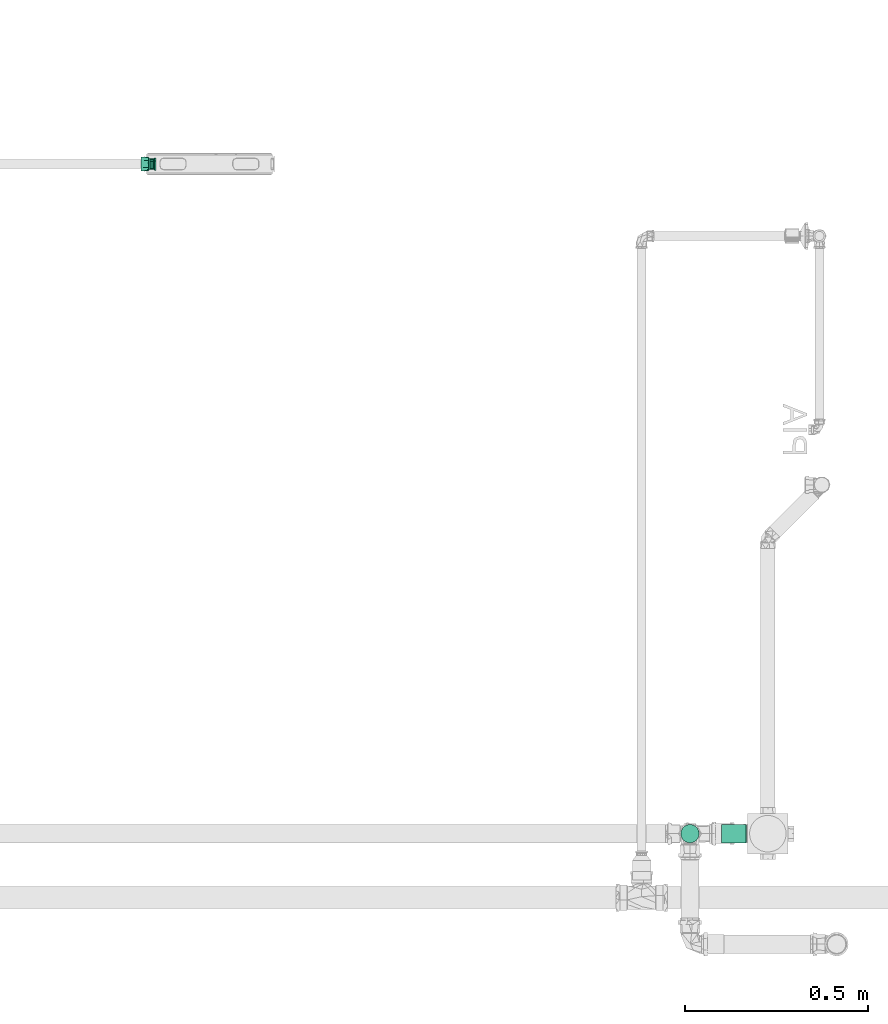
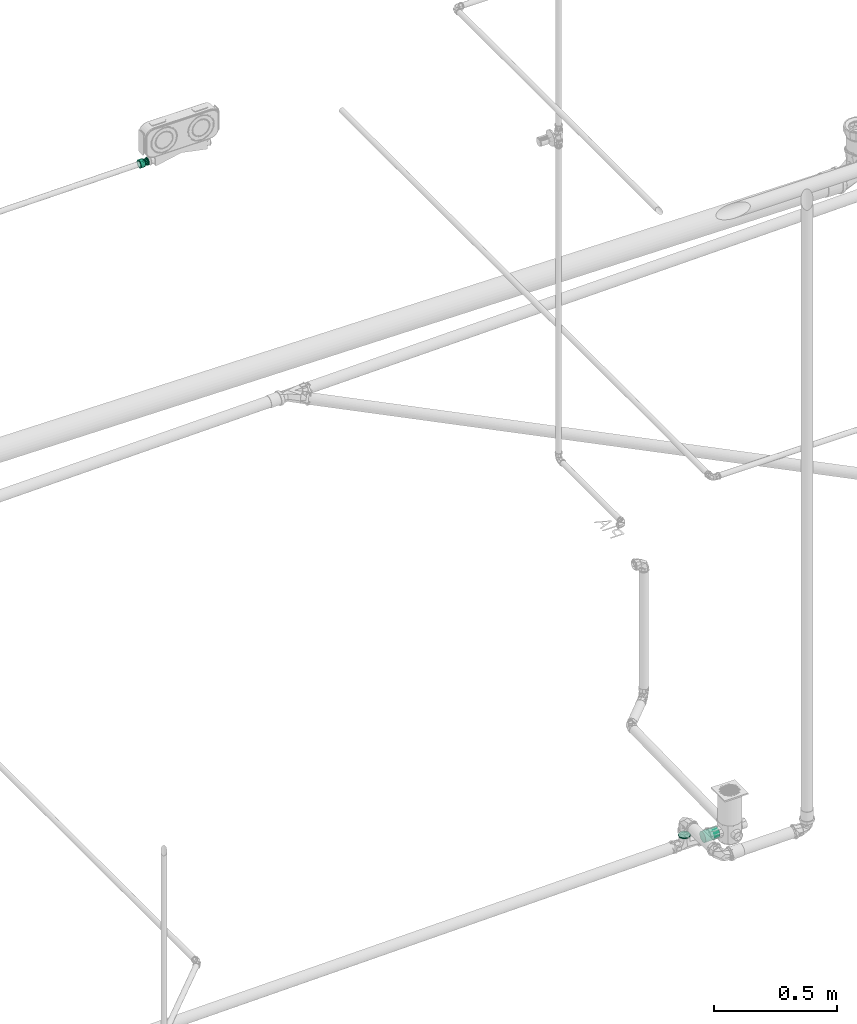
# One storey, part 368 of 589: 2 flow segments, 1 flow fitting.
"""IFC2X3 building model written with IfcOpenShell, lengths in millimetres."""

import ifcopenshell
import ifcopenshell.guid

model = None  # the IFC model being written
_history = None  # IfcOwnerHistory: only IFC2X3 demands one
_inside = {}  # id of a spatial element -> (the spatial element, [elements in it])
_under = {}  # id of a project, library or spatial element -> (it, [spatial elements below it])
_declared = {}  # id of a project -> (the project, [libraries it declares])
_typed = {}  # id of a type object -> (the type object, [elements of that type])
_made_of = {}  # id of a material, layer set ... -> (it, [elements and type objects made of it])


def new_model(schema):
    """Start an empty IFC model of exactly this schema.

    Asked for "IFC4X3", IfcOpenShell would pick the latest addendum, in which some entities
    have other attributes; the version numbers below select the first issue.
    IFC2X3 requires an IfcOwnerHistory on every rooted entity: one is made here for all.
    """
    global model, _history
    if schema == "IFC4X3":
        model = ifcopenshell.file(schema_version=(4, 3, 0, 0))
    else:
        model = ifcopenshell.file(schema=schema)
    _inside.clear()
    _under.clear()
    _declared.clear()
    _typed.clear()
    _made_of.clear()
    _history = None
    if model.schema == "IFC2X3":
        org = make("IfcOrganization", Name="unknown")
        user = make(
            "IfcPersonAndOrganization",
            ThePerson=make("IfcPerson", FamilyName="unknown"),
            TheOrganization=org,
        )
        app = make(
            "IfcApplication",
            ApplicationDeveloper=org,
            Version="unknown",
            ApplicationFullName="unknown",
            ApplicationIdentifier="unknown",
        )
        _history = make(
            "IfcOwnerHistory",
            OwningUser=user,
            OwningApplication=app,
            ChangeAction="ADDED",
            CreationDate=0,
        )
    return model


def make(cls, **values):
    """One entity of the class cls with the attributes given. An attribute that is None is left unset."""
    return model.create_entity(
        cls, **{name: value for name, value in values.items() if value is not None}
    )


def entity(cls, *values):
    """Any entity or typed value of the class cls, its attributes in the order of the schema. None: left unset."""
    e = model.create_entity(cls)
    for i, value in enumerate(values):
        if value is not None:
            e[i] = value
    return e


def rooted(cls, **values):
    """An entity with a GlobalId (a new one), such as an element, a storey or a relation."""
    return make(cls, GlobalId=ifcopenshell.guid.new(), OwnerHistory=_history, **values)


def si_unit(unit_type, name, prefix=None):
    """IfcSIUnit, for example si_unit("LENGTHUNIT", "METRE", prefix="MILLI")."""
    return make("IfcSIUnit", UnitType=unit_type, Prefix=prefix, Name=name)


def converted_unit(unit_type, name, factor, base, dimensions=None, offset=None):
    """IfcConversionBasedUnit, such as the inch: factor (a typed value) times the base unit."""
    return make(
        "IfcConversionBasedUnit"
        if offset is None
        else "IfcConversionBasedUnitWithOffset",
        ConversionOffset=offset,
        Dimensions=None
        if dimensions is None
        else entity("IfcDimensionalExponents", *dimensions),
        UnitType=unit_type,
        Name=name,
        ConversionFactor=make(
            "IfcMeasureWithUnit", ValueComponent=factor, UnitComponent=base
        ),
    )


def derived_unit(unit_type, elements):
    """IfcDerivedUnit: a product of units, each with its exponent."""
    return make(
        "IfcDerivedUnit",
        Elements=[
            make("IfcDerivedUnitElement", Unit=unit, Exponent=power)
            for unit, power in elements
        ],
        UnitType=unit_type,
    )


def assignment(units):
    """IfcUnitAssignment: the units of a project."""
    return None if units is None else make("IfcUnitAssignment", Units=units)


def point(xyz):
    """IfcCartesianPoint."""
    return None if xyz is None else make("IfcCartesianPoint", Coordinates=xyz)


def direction(xyz):
    """IfcDirection."""
    return None if xyz is None else make("IfcDirection", DirectionRatios=xyz)


def frame(location, z_axis=None, x_axis=None):
    """IfcAxis2Placement3D, a coordinate frame: its origin and axes. An axis left out is left unset."""
    return make(
        "IfcAxis2Placement3D",
        Location=point(location),
        Axis=direction(z_axis),
        RefDirection=direction(x_axis),
    )


def frame_2d(location, x_axis=None):
    """IfcAxis2Placement2D, a coordinate frame in the plane: its origin and x axis."""
    return make(
        "IfcAxis2Placement2D", Location=point(location), RefDirection=direction(x_axis)
    )


def origin():
    """The frame at (0, 0, 0) with its axes left unset."""
    return frame((0.0, 0.0, 0.0))


def origin_2d_with_axis():
    """The frame at (0, 0) in the plane with the x axis (1, 0) written out."""
    return frame_2d((0.0, 0.0), x_axis=(1.0, 0.0))


def place(relative_to, where):
    """IfcLocalPlacement: puts the frame where relative to a parent placement (None: the world)."""
    return make(
        "IfcLocalPlacement", PlacementRelTo=relative_to, RelativePlacement=where
    )


def context(
    kind, dimensions, precision=None, world=None, true_north=None, identifier=None
):
    """IfcGeometricRepresentationContext, for example the 3D "Model" context."""
    return make(
        "IfcGeometricRepresentationContext",
        ContextIdentifier=identifier,
        ContextType=kind,
        CoordinateSpaceDimension=dimensions,
        Precision=precision,
        WorldCoordinateSystem=world,
        TrueNorth=true_north,
    )


def subcontext(parent, identifier, kind, view, scale=None):
    """IfcGeometricRepresentationSubContext, for example "Body" below "Model"."""
    return make(
        "IfcGeometricRepresentationSubContext",
        ContextIdentifier=identifier,
        ContextType=kind,
        ParentContext=parent,
        TargetScale=scale,
        TargetView=view,
    )


def project(units=None, contexts=None):
    """IfcProject with its units and contexts."""
    return rooted(
        "IfcProject",
        Name="project",
        RepresentationContexts=contexts,
        UnitsInContext=assignment(units),
    )


def spatial(cls, under=None, at=None, **own):
    """A site, building, storey or space (cls), placed at a placement, below another one or the project."""
    s = rooted(cls, ObjectPlacement=at, **own)
    if under is not None:
        _under.setdefault(under.id(), (under, []))[1].append(s)
    return s


def profile(cls, at=None, kind="AREA", **sizes):
    """A parametric profile (cls). Its sizes go by their IFC names, for example OverallWidth=200.0."""
    return make(cls, ProfileType=kind, Position=at, **sizes)


def circle(**sizes):
    """IfcCircleProfileDef."""
    return profile("IfcCircleProfileDef", **sizes)


def extrude(swept, where, along, depth):
    """IfcExtrudedAreaSolid: the profile swept, set in the frame where, extruded along a direction by depth."""
    return make(
        "IfcExtrudedAreaSolid",
        SweptArea=swept,
        Position=where,
        ExtrudedDirection=direction(along),
        Depth=depth,
    )


def faces_of(points, faces, orient=None, outer=None):
    """IfcFace entities. A face is a list of loops; a loop is a list of indices into points, from 0.

    orient and outer hold one flag for each loop. By default every Orientation is true, the
    first loop of a face is its IfcFaceOuterBound and the others are IfcFaceBound.
    """
    made = []
    for i, loops in enumerate(faces):
        bounds = []
        for j, loop in enumerate(loops):
            is_outer = j == 0 if outer is None else outer[i][j]
            bounds.append(
                make(
                    "IfcFaceOuterBound" if is_outer else "IfcFaceBound",
                    Bound=make("IfcPolyLoop", Polygon=[points[k] for k in loop]),
                    Orientation=True if orient is None else orient[i][j],
                )
            )
        made.append(make("IfcFace", Bounds=bounds))
    return made


def faceted_brep(points, faces, orient=None, outer=None, voids=None):
    """IfcFacetedBrep: a solid bounded by flat faces; with voids (closed shells), ...WithVoids."""
    shared = [point(p) for p in points]
    hull = make("IfcClosedShell", CfsFaces=faces_of(shared, faces, orient, outer))
    if voids is None:
        return make("IfcFacetedBrep", Outer=hull)
    return make(
        "IfcFacetedBrepWithVoids",
        Outer=hull,
        Voids=[
            make(cls, CfsFaces=faces_of(shared, fs, o, b)) for cls, fs, o, b in voids
        ],
    )


def shape(context_of_items, identifier, shape_type, items):
    """IfcShapeRepresentation: the items that make up one representation, for example the "Body"."""
    return make(
        "IfcShapeRepresentation",
        ContextOfItems=context_of_items,
        RepresentationIdentifier=identifier,
        RepresentationType=shape_type,
        Items=items,
    )


def source(mapping_origin, context_of_items, identifier, shape_type, items):
    """IfcRepresentationMap: a shape defined once, which mapped items show again and again."""
    return make(
        "IfcRepresentationMap",
        MappingOrigin=mapping_origin,
        MappedRepresentation=shape(context_of_items, identifier, shape_type, items),
    )


def transform(
    local_origin,
    x_axis=None,
    y_axis=None,
    z_axis=None,
    scale=None,
    scale2=None,
    scale3=None,
    uniform=True,
):
    """IfcCartesianTransformationOperator3D, or its non-uniform kind. x_axis, y_axis, z_axis: its Axis1, 2, 3."""
    if uniform:
        return make(
            "IfcCartesianTransformationOperator3D",
            Axis1=direction(x_axis),
            Axis2=direction(y_axis),
            LocalOrigin=point(local_origin),
            Scale=scale,
            Axis3=direction(z_axis),
        )
    return make(
        "IfcCartesianTransformationOperator3DnonUniform",
        Axis1=direction(x_axis),
        Axis2=direction(y_axis),
        LocalOrigin=point(local_origin),
        Scale=scale,
        Axis3=direction(z_axis),
        Scale2=scale2,
        Scale3=scale3,
    )


def mapped(mapping_source, mapping_target):
    """IfcMappedItem: shows the shape of a source again, moved by a transform."""
    return make(
        "IfcMappedItem", MappingSource=mapping_source, MappingTarget=mapping_target
    )


def material(Name=None, Category=None):
    """IfcMaterial."""
    return make("IfcMaterial", Name=Name, Category=Category)


def made_of(thing, what):
    """Note that an element or type object is made of a material, layer set ...; save() writes the relation."""
    if what is not None:
        _made_of.setdefault(what.id(), (what, []))[1].append(thing)
    return thing


def type_object(cls, material=None, **own):
    """A type object (cls), such as IfcWallType, which elements share."""
    return made_of(rooted(cls, **own), material)


def type_shapes(of_type, sources):
    """Give a type object the sources (RepresentationMaps) that its elements show as mapped items."""
    of_type.RepresentationMaps = sources


def element(
    cls,
    number,
    at=None,
    inside=None,
    cuts=None,
    type_object=None,
    material=None,
    context=None,
    identifier="Body",
    shape_type=None,
    held_by="IfcProductDefinitionShape",
    body=None,
    shapes=None,
    **own,
):
    """One element of the class cls, such as IfcWall. Its Tag is "e" and its number.

    at: its placement. inside: the storey or other place that contains it. cuts: it is an
    opening in that element (IfcRelVoidsElement). A single representation is given by context,
    identifier, shape_type and body (its items); several are given by shapes. held_by: the class
    of the entity that holds the representations. save() writes the other relations.
    """
    e = rooted(cls, Tag="e%d" % number, ObjectPlacement=at, **own)
    if body is not None:
        shapes = [shape(context, identifier, shape_type, body)]
    if shapes is not None:
        e.Representation = make(held_by, Representations=shapes)
    if inside is not None:
        _inside.setdefault(inside.id(), (inside, []))[1].append(e)
    if cuts is not None:
        rooted(
            "IfcRelVoidsElement", RelatingBuildingElement=cuts, RelatedOpeningElement=e
        )
    if type_object is not None:
        _typed.setdefault(type_object.id(), (type_object, []))[1].append(e)
    return made_of(e, material)


def aggregate(whole, parts):
    """IfcRelAggregates: a whole, such as a stair, and the parts it consists of."""
    return rooted("IfcRelAggregates", RelatingObject=whole, RelatedObjects=parts)


def save(model, path):
    """Write the relations noted so far, then the file.

    IfcRelAggregates (storeys below a building ...), IfcRelContainedInSpatialStructure (elements
    in a storey), IfcRelDefinesByType, IfcRelAssociatesMaterial and IfcRelDeclares: one each for
    every whole, place, type object, material and project.
    """
    for whole, parts in _under.values():
        aggregate(whole, parts)
    for where, things in _inside.values():
        rooted(
            "IfcRelContainedInSpatialStructure",
            RelatedElements=things,
            RelatingStructure=where,
        )
    for kind, things in _typed.values():
        rooted("IfcRelDefinesByType", RelatedObjects=things, RelatingType=kind)
    for what, things in _made_of.values():
        rooted("IfcRelAssociatesMaterial", RelatedObjects=things, RelatingMaterial=what)
    for by, libraries in _declared.values():
        rooted("IfcRelDeclares", RelatingContext=by, RelatedDefinitions=libraries)
    model.write(path)


model = new_model("IFC2X3")

# Units and contexts
model_context = context("Model", 3, precision=0.01, world=origin(), true_north=direction((6.123031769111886e-17, 1.0)))
body_context = subcontext(model_context, "Body", "Model", "MODEL_VIEW")
ifc_project = project(units=[si_unit("LENGTHUNIT", "METRE", prefix="MILLI"), si_unit("AREAUNIT", "SQUARE_METRE"), si_unit("VOLUMEUNIT", "CUBIC_METRE"), converted_unit("PLANEANGLEUNIT", "DEGREE", entity("IfcRatioMeasure", 0.017453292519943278), si_unit("PLANEANGLEUNIT", "RADIAN"), dimensions=[0, 0, 0, 0, 0, 0, 0]), si_unit("MASSUNIT", "GRAM", prefix="KILO"), derived_unit("MASSDENSITYUNIT", [(si_unit("MASSUNIT", "GRAM", prefix="KILO"), 1), (si_unit("LENGTHUNIT", "METRE"), -3)]), derived_unit("IONCONCENTRATIONUNIT", [(si_unit("MASSUNIT", "GRAM", prefix="KILO"), 1), (si_unit("LENGTHUNIT", "METRE"), -3)]), derived_unit("MOMENTOFINERTIAUNIT", [(si_unit("LENGTHUNIT", "METRE"), 4)]), si_unit("TIMEUNIT", "SECOND"), si_unit("FREQUENCYUNIT", "HERTZ"), si_unit("THERMODYNAMICTEMPERATUREUNIT", "DEGREE_CELSIUS"), derived_unit("THERMALTRANSMITTANCEUNIT", [(si_unit("MASSUNIT", "GRAM", prefix="KILO"), 1), (si_unit("THERMODYNAMICTEMPERATUREUNIT", "KELVIN"), -1), (si_unit("TIMEUNIT", "SECOND"), -3)]), derived_unit("THERMALCONDUCTANCEUNIT", [(si_unit("MASSUNIT", "GRAM", prefix="KILO"), 1), (si_unit("THERMODYNAMICTEMPERATUREUNIT", "KELVIN"), -1), (si_unit("TIMEUNIT", "SECOND"), -3), (si_unit("LENGTHUNIT", "METRE"), 1)]), derived_unit("VOLUMETRICFLOWRATEUNIT", [(si_unit("LENGTHUNIT", "METRE"), 3), (si_unit("TIMEUNIT", "SECOND"), -1)]), derived_unit("MASSFLOWRATEUNIT", [(si_unit("MASSUNIT", "GRAM", prefix="KILO"), 1), (si_unit("TIMEUNIT", "SECOND"), -1)]), derived_unit("ROTATIONALFREQUENCYUNIT", [(si_unit("TIMEUNIT", "SECOND"), -1)]), si_unit("ELECTRICCURRENTUNIT", "AMPERE"), si_unit("ELECTRICVOLTAGEUNIT", "VOLT"), si_unit("POWERUNIT", "WATT"), si_unit("FORCEUNIT", "NEWTON", prefix="KILO"), si_unit("ILLUMINANCEUNIT", "LUX"), si_unit("LUMINOUSFLUXUNIT", "LUMEN"), si_unit("LUMINOUSINTENSITYUNIT", "CANDELA"), derived_unit("USERDEFINED", [(si_unit("MASSUNIT", "GRAM", prefix="KILO"), -1), (si_unit("LENGTHUNIT", "METRE"), -2), (si_unit("TIMEUNIT", "SECOND"), 3), (si_unit("LUMINOUSFLUXUNIT", "LUMEN"), 1)]), derived_unit("USERDEFINED", [(si_unit("MASSUNIT", "GRAM", prefix="KILO"), 1), (si_unit("TIMEUNIT", "SECOND"), -3), (si_unit("LENGTHUNIT", "METRE"), 3), (si_unit("ELECTRICCURRENTUNIT", "AMPERE"), -2)]), derived_unit("SOUNDPOWERUNIT", [(si_unit("MASSUNIT", "GRAM", prefix="KILO"), 1), (si_unit("TIMEUNIT", "SECOND"), -3), (si_unit("LENGTHUNIT", "METRE"), 2)]), derived_unit("SOUNDPRESSUREUNIT", [(si_unit("MASSUNIT", "GRAM", prefix="KILO"), 1), (si_unit("LENGTHUNIT", "METRE"), -1), (si_unit("TIMEUNIT", "SECOND"), -2)]), derived_unit("LINEARVELOCITYUNIT", [(si_unit("LENGTHUNIT", "METRE"), 1), (si_unit("TIMEUNIT", "SECOND"), -1)]), si_unit("PRESSUREUNIT", "PASCAL"), derived_unit("USERDEFINED", [(si_unit("MASSUNIT", "GRAM", prefix="KILO"), 1), (si_unit("LENGTHUNIT", "METRE"), -2), (si_unit("TIMEUNIT", "SECOND"), -2)]), derived_unit("LINEARFORCEUNIT", [(si_unit("MASSUNIT", "GRAM", prefix="KILO"), 1), (si_unit("TIMEUNIT", "SECOND"), -2)]), derived_unit("PLANARFORCEUNIT", [(si_unit("MASSUNIT", "GRAM", prefix="KILO"), 1), (si_unit("LENGTHUNIT", "METRE"), -1), (si_unit("TIMEUNIT", "SECOND"), -2)]), derived_unit("SPECIFICHEATCAPACITYUNIT", [(si_unit("THERMODYNAMICTEMPERATUREUNIT", "KELVIN"), -1), (si_unit("LENGTHUNIT", "METRE"), 2), (si_unit("TIMEUNIT", "SECOND"), -2)]), derived_unit("HEATINGVALUEUNIT", [(si_unit("LENGTHUNIT", "METRE"), 2), (si_unit("TIMEUNIT", "SECOND"), -2)]), derived_unit("VAPORPERMEABILITYUNIT", [(si_unit("LENGTHUNIT", "METRE"), -1), (si_unit("TIMEUNIT", "SECOND"), 1)]), derived_unit("DYNAMICVISCOSITYUNIT", [(si_unit("MASSUNIT", "GRAM", prefix="KILO"), 1), (si_unit("TIMEUNIT", "SECOND"), -1), (si_unit("LENGTHUNIT", "METRE"), -1)]), derived_unit("THERMALEXPANSIONCOEFFICIENTUNIT", [(si_unit("THERMODYNAMICTEMPERATUREUNIT", "KELVIN"), -1)]), derived_unit("MODULUSOFELASTICITYUNIT", [(si_unit("MASSUNIT", "GRAM", prefix="KILO"), 1), (si_unit("LENGTHUNIT", "METRE"), -1), (si_unit("TIMEUNIT", "SECOND"), -2)]), derived_unit("ISOTHERMALMOISTURECAPACITYUNIT", [(si_unit("LENGTHUNIT", "METRE"), 3), (si_unit("MASSUNIT", "GRAM", prefix="KILO"), -1)]), derived_unit("MOISTUREDIFFUSIVITYUNIT", [(si_unit("TIMEUNIT", "SECOND"), -1), (si_unit("LENGTHUNIT", "METRE"), 2)])], contexts=[model_context])

# Site, building, storey
site_placement = place(None, origin())
site = spatial("IfcSite", under=ifc_project, at=site_placement, Name="Default", CompositionType="ELEMENT")
building_placement = place(site_placement, origin())
building = spatial("IfcBuilding", under=site, at=building_placement, CompositionType="ELEMENT")
storey_placement = place(building_placement, frame((0.0, 0.0, 100.0)))
storey = spatial("IfcBuildingStorey", under=building, at=storey_placement, Name="TÉRREO", CompositionType="ELEMENT", Elevation=100.0)

# Flow segments
pipe_segment_type = type_object("IfcPipeSegmentType", Name="Tipos de tubos:PVC Esgoto Série Normal", PredefinedType="NOTDEFINED")
flow_segment_1_placement = place(storey_placement, origin())
element("IfcFlowSegment", 1, at=flow_segment_1_placement, inside=storey, type_object=pipe_segment_type, Name="Tipos de tubos:PVC Esgoto Série Normal", ObjectType="Tipos de tubos:PVC Esgoto Série Normal", context=body_context, shape_type="SweptSolid", body=[
    extrude(circle(Radius=25.0, at=origin_2d_with_axis()), frame((-3099.894944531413, -354.2352269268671, -145.9412999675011), z_axis=(0.005249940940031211, 0.0, -0.9999862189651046), x_axis=(0.0, 1.0, 0.0)), (0.0, 0.0, 1.0), 5.141117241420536),
])
flow_segment_2_placement = place(storey_placement, origin())
element("IfcFlowSegment", 2, at=flow_segment_2_placement, inside=storey, type_object=pipe_segment_type, Name="Tipos de tubos:PVC Esgoto Série Normal", ObjectType="Tipos de tubos:PVC Esgoto Série Normal", context=body_context, shape_type="SweptSolid", body=[
    extrude(circle(Radius=25.0, at=frame_2d((0.0, -1.6916415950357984e-14), x_axis=(1.0, 0.0))), frame((-3013.985128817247, -354.2352269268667, -188.76468985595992), z_axis=(0.999800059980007, 0.0, 0.019996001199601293), x_axis=(0.0, 1.0, 0.0)), (0.0, 0.0, 1.0), 67.48989864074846),
])

# Flow fitting
ifc_material = material(Name="PVC Azul")
pipe_fitting_type = type_object("IfcPipeFittingType", Name="Luva Soldavel com Bucha de Latao - Fortlev - AleBim:Standard", PredefinedType="NOTDEFINED", material=ifc_material)
shared_shape = source(origin(), body_context, "Body", "Brep", [
    faceted_brep([(0.0, -9.400000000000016, -16.28127759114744), (0.0, -13.2936074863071, -13.293607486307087), (0.0, -6.249999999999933, -10.825317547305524), (0.0, -3.235238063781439, -12.074072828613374), (0.0, -4.865798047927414, -18.15940553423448), (0.0, -8.838834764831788, -8.838834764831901), (0.0, -16.281277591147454, -9.399999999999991), (0.0, -10.82531754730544, -6.250000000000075), (0.0, -12.074072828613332, -3.2352380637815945), (0.0, -18.159405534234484, -4.865798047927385), (0.0, -12.5, 0.0), (0.0, -18.8, 0.0), (0.0, -12.074072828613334, 3.2352380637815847), (0.0, -18.159405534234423, 4.8657980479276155), (0.0, -10.825317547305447, 6.250000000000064), (0.0, -16.281277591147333, 9.400000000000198), (0.0, -8.838834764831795, 8.838834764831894), (0.0, -13.293607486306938, 13.29360748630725), (0.0, -6.249999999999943, 10.825317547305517), (0.0, -9.399999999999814, 16.281277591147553), (0.0, -3.23523806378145, 12.07407282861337), (0.0, -4.865798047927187, 18.159405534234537), (0.0, 0.0, 12.5), (0.0, 0.0, 18.8), (0.0, 3.2352380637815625, 12.074072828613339), (0.0, 4.865798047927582, 18.159405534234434), (0.0, 6.2500000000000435, 10.825317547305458), (0.0, 9.400000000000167, 16.28127759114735), (0.0, 8.838834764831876, 8.838834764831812), (0.0, 13.29360748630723, 13.293607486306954), (0.0, 10.825317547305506, 6.249999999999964), (0.0, 16.281277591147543, 9.399999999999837), (0.0, 18.159405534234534, 4.865798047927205), (0.0, 12.074072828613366, 3.2352380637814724), (0.0, 18.8, 0.0), (0.0, 12.5, 0.0), (0.0, 18.15940553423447, -4.865798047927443), (0.0, 12.074072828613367, -3.2352380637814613), (0.0, 16.281277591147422, -9.400000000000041), (0.0, 10.825317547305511, -6.249999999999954), (0.0, 13.293607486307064, -13.293607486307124), (0.0, 8.838834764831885, -8.838834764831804), (0.0, 9.399999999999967, -16.281277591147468), (0.0, 6.250000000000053, -10.825317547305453), (0.0, 4.86579804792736, -18.159405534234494), (0.0, 3.2352380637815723, -12.074072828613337), (0.0, 0.0, -18.8), (0.0, 0.0, -12.5), (20.0, 17.66604204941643, 6.4304710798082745), (20.0, 18.233021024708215, 3.2152355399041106), (20.0, 11.899800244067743, 14.183636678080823), (20.0, 14.400961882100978, 12.08520983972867), (20.0, 16.033501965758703, 9.257840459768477), (20.0, 6.330580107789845, 17.39840655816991), (20.0, 3.2625216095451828, 18.514749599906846), (20.0, 18.8, 0.0), (20.0, 9.398638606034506, 16.282063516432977), (20.0, -17.667654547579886, 6.4260394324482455), (20.0, -9.402722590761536, 16.279705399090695), (20.0, -6.334944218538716, 17.39681801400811), (20.0, -3.267165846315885, 18.513930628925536), (20.0, -14.403992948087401, 12.081597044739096), (20.0, -11.903357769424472, 14.180651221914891), (20.0, -18.8, 0.0), (20.0, -16.03582374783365, 9.253818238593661), (20.0, -0.0023221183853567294, 18.514340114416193), (20.0, -17.66765454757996, -6.426039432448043), (20.0, -11.903357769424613, -14.180651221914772), (20.0, -14.403992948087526, -12.081597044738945), (20.0, -16.035823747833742, -9.253818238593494), (20.0, -6.334944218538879, -17.39681801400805), (20.0, -3.2671658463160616, -18.513930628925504), (20.0, 18.233021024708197, -3.2152355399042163), (20.0, -9.402722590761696, -16.2797053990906), (20.0, 6.330580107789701, -17.398406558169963), (20.0, 3.2625216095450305, -18.514749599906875), (20.0, 9.398638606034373, -16.282063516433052), (20.0, 11.899800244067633, -14.183636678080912), (20.0, 17.66604204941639, -6.43047107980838), (20.0, 16.033501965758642, -9.257840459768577), (20.0, 14.400961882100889, -12.085209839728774), (20.0, -0.0023221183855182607, -18.51434011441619), (23.69999999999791, 14.19050976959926, 5.16134018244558), (23.699999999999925, 15.09999999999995, 0.0), (23.699999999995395, 5.088173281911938, 13.97297617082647), (23.699999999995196, 2.6241598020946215, 14.870231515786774), (23.699999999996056, 9.560675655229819, 11.38977837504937), (23.699999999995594, 7.552186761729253, 13.075720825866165), (23.699999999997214, 12.879837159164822, 7.432588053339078), (23.699999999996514, 11.569164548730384, 9.703835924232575), (23.699999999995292, 0.0018651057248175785, 14.870560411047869), (23.69999999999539, -2.620429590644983, 14.870889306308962), (23.699999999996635, -9.557818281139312, 11.392176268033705), (23.699999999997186, -11.566730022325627, 9.706737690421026), (23.699999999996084, -7.548906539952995, 13.077614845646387), (23.699999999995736, -5.084668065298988, 13.974252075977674), (23.699999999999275, -14.644607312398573, 2.582449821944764), (23.699999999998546, -14.189214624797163, 5.164899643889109), (23.700000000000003, -15.099999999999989, 0.0), (23.699999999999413, -14.732236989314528, 2.085517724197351), (23.699999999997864, -12.877972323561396, 7.4358186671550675), (23.699999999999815, -14.644607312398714, -2.582449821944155), (23.699999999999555, -14.18921462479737, -5.164899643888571), (23.699999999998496, -5.084668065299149, -13.97425207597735), (23.699999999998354, -2.620429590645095, -14.87088930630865), (23.69999999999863, -7.548906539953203, -13.077614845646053), (23.69999999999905, -11.566730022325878, -9.706737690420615), (23.69999999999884, -9.557818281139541, -11.392176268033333), (23.6999999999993, 14.190509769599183, -5.1613401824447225), (23.699999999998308, 0.0018651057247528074, -14.870560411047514), (23.699999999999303, -12.877972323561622, -7.435818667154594), (23.699999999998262, 2.6241598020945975, -14.870231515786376), (23.699999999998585, 9.56067565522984, -11.389778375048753), (23.699999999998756, 11.569164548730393, -9.703835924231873), (23.699999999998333, 5.088173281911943, -13.972976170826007), (23.69999999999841, 7.552186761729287, -13.075720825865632), (23.69999999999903, 12.879837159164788, -7.432588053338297), (34.20000000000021, -14.189214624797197, -5.164899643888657), (34.20000000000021, -14.73223698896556, -2.085517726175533), (34.20000000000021, -15.099999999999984, 0.0), (34.20000000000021, -9.55781828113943, -11.392176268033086), (34.20000000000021, -11.566730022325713, -9.706737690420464), (34.20000000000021, -7.548906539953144, -13.077614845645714), (34.20000000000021, -12.877972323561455, -7.43581866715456), (34.20000000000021, -2.620429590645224, -14.870889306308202), (34.20000000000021, -5.084668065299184, -13.974252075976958), (34.20000000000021, 2.6241598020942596, -14.870231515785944), (34.20000000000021, 0.0018651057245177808, -14.870560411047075), (34.20000000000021, 5.0881732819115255, -13.97297617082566), (34.20000000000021, 7.552186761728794, -13.075720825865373), (34.20000000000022, 11.56916454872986, -9.70383592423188), (34.200000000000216, 9.560675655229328, -11.389778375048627), (34.20000000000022, 12.879837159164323, -7.432588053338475), (34.20000000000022, 14.19050976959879, -5.161340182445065), (34.20000000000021, 15.100000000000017, 0.0), (34.199999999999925, 14.190509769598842, 5.161340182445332), (34.19999999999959, 7.552186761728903, 13.0757208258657), (34.199999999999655, 9.56067565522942, 11.389778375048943), (34.19999999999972, 11.569164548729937, 9.703835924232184), (34.199999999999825, 12.879837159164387, 7.432588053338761), (34.19999999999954, 2.624159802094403, 14.87023151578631), (34.19999999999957, 5.08817328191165, 13.972976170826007), (34.19999999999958, -2.6204295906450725, 14.870889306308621), (34.19999999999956, 0.0018651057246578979, 14.870560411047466), (34.199999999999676, -7.548906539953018, 13.077614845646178), (34.199999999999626, -5.084668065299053, 13.974252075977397), (34.20000000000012, -14.644607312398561, 2.582449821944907), (34.20000000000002, -14.18921462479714, 5.164899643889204), (34.199999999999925, -12.877972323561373, 7.435818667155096), (34.19999999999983, -11.566730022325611, 9.706737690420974), (34.199999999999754, -9.557818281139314, 11.392176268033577), (36.20000000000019, -17.099999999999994, 0.0), (36.20000000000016, -16.698266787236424, 2.2781566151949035), (36.199999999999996, -16.584290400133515, 2.9244961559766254), (36.200000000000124, -16.068580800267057, 5.848992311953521), (36.20000000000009, -14.583664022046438, 8.420695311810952), (36.20000000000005, -13.098747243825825, 10.992398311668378), (36.200000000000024, -10.823754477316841, 12.90107378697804), (36.2, -8.548761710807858, 14.809749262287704), (36.19999999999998, -5.758134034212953, 15.825146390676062), (36.19999999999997, -2.9675063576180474, 16.840543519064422), (36.19999999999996, 0.0021121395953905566, 16.84017106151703), (36.19999999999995, 2.9717306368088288, 16.839798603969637), (36.199999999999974, 8.55247639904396, 14.807604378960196), (36.19999999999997, 5.762103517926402, 15.823701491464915), (36.20000000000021, 17.100000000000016, 0.0), (36.2000000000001, 16.070047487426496, 5.844961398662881), (36.200000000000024, 13.101504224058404, 10.989112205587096), (36.20000000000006, 14.585775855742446, 8.417036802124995), (36.2, 10.826990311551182, 12.898358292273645), (36.20000000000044, 16.07004748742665, -5.844961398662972), (36.200000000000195, 0.0021121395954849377, -16.84017106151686), (36.20000000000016, -2.9675063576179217, -16.84054351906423), (36.20000000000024, 2.9717306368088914, -16.839798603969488), (36.200000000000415, 14.58577585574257, -8.417036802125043), (36.20000000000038, 13.10150422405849, -10.989112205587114), (36.20000000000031, 8.552476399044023, -14.807604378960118), (36.20000000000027, 5.7621035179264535, -15.823701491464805), (36.20000000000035, 10.826990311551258, -12.898358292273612), (36.20000000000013, -5.758134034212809, -15.825146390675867), (36.2000000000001, -8.548761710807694, -14.809749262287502), (36.200000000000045, -16.068580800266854, -5.848992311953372), (36.200000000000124, -16.58429040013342, -2.924496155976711), (36.20000000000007, -13.098747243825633, -10.992398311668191), (36.20000000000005, -14.583664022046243, -8.420695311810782), (36.20000000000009, -10.823754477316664, -12.901073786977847), (40.200000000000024, 8.550000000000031, -14.809034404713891), (40.200000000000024, 12.091525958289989, -12.091525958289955), (40.200000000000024, 6.2500000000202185, -10.825317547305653), (40.200000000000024, 3.2352380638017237, -12.074072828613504), (40.200000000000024, 4.425805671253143, -16.51733162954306), (40.200000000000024, 8.838834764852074, -8.838834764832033), (40.200000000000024, 14.809034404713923, -8.549999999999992), (40.200000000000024, 10.825317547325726, -6.250000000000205), (40.200000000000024, 12.074072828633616, -3.235238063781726), (40.200000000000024, 16.517331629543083, -4.4258056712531), (40.200000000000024, 12.500000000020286, 0.0), (40.200000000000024, 17.100000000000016, 0.0), (40.200000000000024, 12.074072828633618, 3.2352380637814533), (40.200000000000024, 16.51733162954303, 4.42580567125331), (40.200000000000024, 10.825317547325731, 6.2499999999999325), (40.200000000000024, 14.809034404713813, 8.550000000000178), (40.200000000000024, 8.83883476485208, 8.838834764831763), (40.200000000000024, 12.091525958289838, 12.091525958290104), (40.200000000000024, 6.250000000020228, 10.825317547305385), (40.200000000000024, 8.549999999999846, 14.809034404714), (40.200000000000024, 3.235238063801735, 12.074072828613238), (40.200000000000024, 4.425805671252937, 16.51733162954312), (40.200000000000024, 0.0, 12.49999999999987), (40.200000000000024, 0.0, 17.1), (40.200000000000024, -3.235238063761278, 12.07407282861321), (40.200000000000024, -4.425805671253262, 16.51733162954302), (40.200000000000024, -6.249999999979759, 10.825317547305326), (40.200000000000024, -8.550000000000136, 14.809034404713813), (40.200000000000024, -8.838834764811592, 8.838834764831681), (40.200000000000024, -12.091525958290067, 12.091525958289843), (40.200000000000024, -10.825317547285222, 6.249999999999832), (40.200000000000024, -14.809034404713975, 8.549999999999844), (40.200000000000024, -16.517331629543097, 4.425805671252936), (40.200000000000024, -12.07407282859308, 3.2352380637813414), (40.200000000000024, -17.099999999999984, 0.0), (40.200000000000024, -12.499999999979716, 0.0), (40.200000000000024, -16.517331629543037, -4.425805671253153), (40.200000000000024, -12.074072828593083, -3.2352380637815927), (40.200000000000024, -14.809034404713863, -8.550000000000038), (40.200000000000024, -10.825317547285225, -6.250000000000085), (40.200000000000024, -12.09152595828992, -12.09152595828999), (40.200000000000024, -8.838834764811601, -8.838834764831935), (40.200000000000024, -8.549999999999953, -14.80903440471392), (40.200000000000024, -6.249999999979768, -10.825317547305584), (40.200000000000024, -4.425805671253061, -16.517331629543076), (40.200000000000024, -3.2352380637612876, -12.074072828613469), (40.200000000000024, 0.0, -17.1), (40.200000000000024, 0.0, -12.500000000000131), (24.0, 3.23523806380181, -12.074072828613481), (24.0, 6.250000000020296, -10.825317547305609), (24.0, 8.838834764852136, -8.83883476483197), (24.0, 10.825317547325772, -6.250000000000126), (24.0, 12.07407282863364, -3.2352380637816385), (24.0, 12.500000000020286, 0.0), (24.0, 12.074072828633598, 3.235238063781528), (24.0, 10.825317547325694, 6.249999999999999), (24.0, 8.838834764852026, 8.838834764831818), (24.0, 6.250000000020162, 10.825317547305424), (24.0, 3.2352380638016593, 12.074072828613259), (24.0, 0.0, 12.49999999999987), (24.0, -3.235238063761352, 12.07407282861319), (24.0, -6.249999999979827, 10.82531754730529), (24.0, -8.83883476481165, 8.83883476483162), (24.0, -10.82531754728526, 6.24999999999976), (24.0, -12.074072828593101, 3.235238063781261), (24.0, -12.499999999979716, 0.0), (24.0, -12.07407282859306, -3.235238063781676), (24.0, -10.825317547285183, -6.250000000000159), (24.0, -8.838834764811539, -8.838834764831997), (24.0, -6.2499999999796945, -10.825317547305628), (24.0, -3.2352380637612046, -12.074072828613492), (24.0, 0.0, -12.500000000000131), (16.200000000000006, -12.074072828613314, 3.2352380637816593), (16.200000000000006, -12.5, 0.0), (16.200000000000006, -10.825317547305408, 6.250000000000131), (16.200000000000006, -8.838834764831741, 8.83883476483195), (16.200000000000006, -6.2499999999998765, 10.825317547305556), (16.200000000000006, -3.2352380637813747, 12.07407282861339), (16.200000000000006, 0.0, 12.5), (16.200000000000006, 6.250000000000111, 10.825317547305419), (16.200000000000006, 3.235238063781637, 12.074072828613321), (16.200000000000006, 8.838834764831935, 8.838834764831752), (16.200000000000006, 10.825317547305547, 6.249999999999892), (16.200000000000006, 12.074072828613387, 3.235238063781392), (16.200000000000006, 12.5, 0.0), (16.200000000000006, 12.074072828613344, -3.2352380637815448), (16.200000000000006, 10.825317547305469, -6.2500000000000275), (16.200000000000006, 8.838834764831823, -8.838834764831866), (16.200000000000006, 6.24999999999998, -10.825317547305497), (16.200000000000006, 3.2352380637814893, -12.07407282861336), (16.200000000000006, 0.0, -12.5), (16.200000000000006, -6.250000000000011, -10.82531754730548), (16.200000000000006, -3.2352380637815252, -12.07407282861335), (16.200000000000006, -8.83883476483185, -8.838834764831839), (16.200000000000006, -10.825317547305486, -6.249999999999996), (16.200000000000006, -12.074072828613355, -3.2352380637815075)], [[[0, 1, 2]], [[0, 2, 3]], [[3, 4, 0]], [[2, 1, 5]], [[6, 5, 1]], [[7, 5, 6]], [[8, 7, 6]], [[8, 6, 9]], [[8, 9, 10]], [[10, 9, 11]], [[12, 10, 11]], [[12, 11, 13]], [[14, 12, 13]], [[14, 13, 15]], [[16, 14, 15]], [[15, 17, 16]], [[17, 18, 16]], [[18, 17, 19]], [[18, 19, 20]], [[21, 20, 19]], [[20, 21, 22]], [[22, 21, 23]], [[23, 24, 22]], [[24, 23, 25]], [[24, 25, 26]], [[27, 26, 25]], [[27, 28, 26]], [[27, 29, 28]], [[30, 28, 29]], [[31, 30, 29]], [[32, 30, 31]], [[33, 30, 32]], [[33, 32, 34]], [[34, 35, 33]], [[36, 35, 34]], [[36, 37, 35]], [[37, 36, 38]], [[39, 37, 38]], [[39, 38, 40]], [[39, 40, 41]], [[40, 42, 41]], [[41, 42, 43]], [[43, 42, 44]], [[44, 45, 43]], [[46, 45, 44]], [[4, 47, 46]], [[45, 46, 47]], [[4, 3, 47]], [[32, 48, 49]], [[50, 51, 29]], [[52, 48, 31, 51]], [[53, 25, 54]], [[48, 32, 31]], [[34, 49, 55]], [[25, 53, 27]], [[27, 56, 50]], [[29, 51, 31]], [[13, 57, 15]], [[19, 58, 59]], [[53, 56, 27]], [[21, 19, 59]], [[54, 25, 23]], [[29, 27, 50]], [[59, 60, 21]], [[61, 62, 17]], [[63, 57, 13]], [[32, 49, 34]], [[64, 61, 15, 57]], [[11, 63, 13]], [[17, 62, 19]], [[65, 54, 23, 60]], [[61, 17, 15]], [[19, 62, 58]], [[21, 60, 23]], [[66, 63, 9]], [[67, 68, 1]], [[69, 66, 6, 68]], [[70, 4, 71]], [[66, 9, 6]], [[63, 11, 9]], [[1, 68, 6]], [[34, 55, 72]], [[70, 73, 0]], [[71, 4, 46]], [[74, 75, 44]], [[42, 76, 74]], [[42, 77, 76]], [[36, 78, 38]], [[38, 78, 79, 80]], [[36, 34, 72]], [[77, 40, 80]], [[72, 78, 36]], [[0, 73, 67]], [[81, 71, 46, 75]], [[1, 0, 67]], [[4, 70, 0]], [[80, 40, 38]], [[40, 77, 42]], [[44, 75, 46]], [[44, 42, 74]], [[82, 83, 49]], [[84, 53, 85]], [[86, 50, 87]], [[88, 52, 89]], [[53, 54, 85]], [[50, 56, 87]], [[49, 48, 82]], [[52, 51, 89]], [[87, 56, 84]], [[83, 55, 49]], [[88, 48, 52]], [[51, 50, 86]], [[85, 54, 90]], [[82, 48, 88]], [[56, 53, 84]], [[89, 51, 86]], [[65, 60, 91]], [[92, 62, 93]], [[59, 58, 94]], [[90, 65, 91]], [[95, 59, 94]], [[96, 97, 57]], [[63, 98, 99, 96]], [[64, 57, 97]], [[100, 64, 97]], [[62, 61, 93]], [[93, 61, 100]], [[59, 95, 60]], [[92, 58, 62]], [[61, 64, 100]], [[63, 96, 57]], [[94, 58, 92]], [[54, 65, 90]], [[91, 60, 95]], [[66, 101, 63]], [[98, 63, 101]], [[66, 102, 101]], [[103, 71, 104]], [[105, 73, 70]], [[106, 68, 67]], [[107, 73, 105]], [[102, 66, 69]], [[108, 78, 72]], [[70, 71, 103]], [[109, 104, 81]], [[69, 68, 110]], [[81, 75, 109]], [[110, 102, 69]], [[67, 73, 107]], [[107, 106, 67]], [[75, 111, 109]], [[112, 80, 113]], [[111, 75, 74]], [[110, 68, 106]], [[81, 104, 71]], [[114, 76, 115]], [[103, 105, 70]], [[113, 80, 79]], [[116, 78, 108]], [[115, 76, 77]], [[116, 113, 79]], [[79, 78, 116]], [[55, 83, 72]], [[77, 80, 112]], [[108, 72, 83]], [[112, 115, 77]], [[74, 76, 114]], [[114, 111, 74]], [[117, 118, 119, 98, 101, 102]], [[120, 121, 106, 107, 105, 122]], [[121, 123, 117, 102, 110, 106]], [[124, 125, 122, 105, 103, 104]], [[126, 127, 124, 104, 109, 111]], [[128, 126, 111, 114, 115, 129]], [[112, 113, 130, 131, 129, 115]], [[132, 130, 113, 116, 108, 133]], [[108, 83, 134, 133]], [[135, 134, 83, 82]], [[136, 137, 138, 89, 86, 87]], [[138, 139, 135, 82, 88, 89]], [[140, 141, 136, 87, 84, 85]], [[90, 91, 142, 143, 140, 85]], [[95, 94, 144, 145, 142, 91]], [[99, 98, 119, 146, 147, 97, 96]], [[148, 149, 93, 100, 97, 147]], [[92, 93, 149, 150, 144, 94]], [[147, 146, 119, 151, 152, 153, 154]], [[148, 147, 154, 155, 156, 149]], [[150, 149, 156, 157, 158, 144]], [[158, 159, 160, 142, 145, 144]], [[161, 162, 140, 143, 142, 160]], [[163, 136, 141, 140, 162, 164]], [[165, 134, 135, 166]], [[167, 168, 166, 135, 139, 138]], [[163, 169, 167, 138, 137, 136]], [[170, 133, 134, 165]], [[171, 172, 124, 127, 126, 173]], [[132, 133, 170, 174, 175, 130]], [[126, 128, 129, 176, 177, 173]], [[175, 178, 176, 129, 131, 130]], [[125, 124, 172, 179, 180, 122]], [[151, 119, 118, 117, 181, 182]], [[183, 184, 181, 117, 123, 121]], [[180, 185, 183, 121, 120, 122]], [[186, 187, 188]], [[186, 188, 189]], [[189, 190, 186]], [[188, 187, 191]], [[192, 191, 187]], [[193, 191, 192]], [[194, 193, 192]], [[194, 192, 195]], [[194, 195, 196]], [[196, 195, 197]], [[198, 196, 197]], [[198, 197, 199]], [[200, 198, 199]], [[200, 199, 201]], [[202, 200, 201]], [[201, 203, 202]], [[203, 204, 202]], [[204, 203, 205]], [[204, 205, 206]], [[207, 206, 205]], [[206, 207, 208]], [[208, 207, 209]], [[209, 210, 208]], [[210, 209, 211]], [[210, 211, 212]], [[213, 212, 211]], [[213, 214, 212]], [[213, 215, 214]], [[216, 214, 215]], [[217, 216, 215]], [[218, 216, 217]], [[219, 216, 218]], [[219, 218, 220]], [[220, 221, 219]], [[222, 221, 220]], [[222, 223, 221]], [[223, 222, 224]], [[225, 223, 224]], [[225, 224, 226]], [[225, 226, 227]], [[226, 228, 227]], [[227, 228, 229]], [[229, 228, 230]], [[230, 231, 229]], [[232, 231, 230]], [[190, 233, 232]], [[231, 232, 233]], [[190, 189, 233]], [[218, 154, 153]], [[157, 156, 215]], [[155, 154, 217, 156]], [[159, 211, 160]], [[154, 218, 217]], [[220, 153, 152, 151]], [[213, 158, 157]], [[215, 213, 157]], [[215, 156, 217]], [[205, 163, 164]], [[207, 205, 164]], [[159, 158, 213]], [[211, 159, 213]], [[160, 211, 209]], [[218, 153, 220]], [[164, 162, 207]], [[167, 169, 203]], [[165, 166, 199]], [[168, 167, 201, 166]], [[197, 165, 199]], [[203, 169, 205]], [[161, 160, 209, 162]], [[207, 162, 209]], [[167, 203, 201]], [[205, 169, 163]], [[199, 166, 201]], [[170, 165, 195]], [[178, 175, 187]], [[174, 170, 192, 175]], [[177, 190, 173]], [[170, 195, 192]], [[165, 197, 195]], [[190, 177, 186]], [[186, 176, 178]], [[187, 175, 192]], [[222, 220, 182]], [[228, 180, 179]], [[177, 176, 186]], [[230, 228, 179]], [[173, 190, 232]], [[187, 186, 178]], [[179, 172, 230]], [[183, 185, 226]], [[182, 181, 222]], [[184, 183, 224, 181]], [[222, 181, 224]], [[226, 185, 228]], [[171, 173, 232, 172]], [[230, 172, 232]], [[183, 226, 224]], [[228, 185, 180]], [[220, 151, 182]], [[234, 235, 236, 237, 238, 239, 240, 241, 242, 243, 244, 245, 246, 247, 248, 249, 250, 251, 252, 253, 254, 255, 256, 257]], [[250, 219, 221, 251]], [[12, 258, 259, 10]], [[249, 216, 219, 250]], [[14, 260, 258, 12]], [[214, 248, 247, 212]], [[261, 16, 18, 262]], [[249, 248, 214, 216]], [[261, 260, 14, 16]], [[212, 247, 246, 210]], [[262, 18, 20, 263]], [[210, 246, 245, 208]], [[20, 22, 264, 263]], [[243, 204, 206, 244]], [[26, 265, 266, 24]], [[242, 202, 204, 243]], [[28, 267, 265, 26]], [[200, 241, 240, 198]], [[268, 30, 33, 269]], [[242, 241, 200, 202]], [[268, 267, 28, 30]], [[198, 240, 239, 196]], [[269, 33, 35, 270]], [[206, 208, 245, 244]], [[24, 266, 264, 22]], [[238, 194, 196, 239]], [[37, 271, 270, 35]], [[237, 193, 194, 238]], [[39, 272, 271, 37]], [[191, 236, 235, 188]], [[273, 41, 43, 274]], [[237, 236, 191, 193]], [[273, 272, 39, 41]], [[188, 235, 234, 189]], [[274, 43, 45, 275]], [[189, 234, 257, 233]], [[45, 47, 276, 275]], [[255, 229, 231, 256]], [[2, 277, 278, 3]], [[254, 227, 229, 255]], [[5, 279, 277, 2]], [[225, 253, 252, 223]], [[280, 7, 8, 281]], [[254, 253, 225, 227]], [[280, 279, 5, 7]], [[223, 252, 251, 221]], [[281, 8, 10, 259]], [[231, 233, 257, 256]], [[3, 278, 276, 47]], [[278, 277, 279, 280, 281, 259, 258, 260, 261, 262, 263, 264, 266, 265, 267, 268, 269, 270, 271, 272, 273, 274, 275, 276]]]),
])
type_shapes(pipe_fitting_type, [shared_shape])
flow_fitting_placement = place(storey_placement, frame((-4596.914455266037, 1472.3181323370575, 2586.554708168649), z_axis=(-0.009999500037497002, 0.0, 0.9999500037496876), x_axis=(0.9999500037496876, 0.0, 0.009999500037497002)))
element("IfcFlowFitting", 3, at=flow_fitting_placement, inside=storey, type_object=pipe_fitting_type, material=ifc_material, Name="Luva Soldavel com Bucha de Latao - Fortlev - AleBim:Standard", ObjectType="Luva Soldavel com Bucha de Latao - Fortlev - AleBim:Standard", context=body_context, shape_type="MappedRepresentation", body=[
    mapped(shared_shape, transform((0.0, 0.0, 0.0), scale=1.0)),
])

save(model, "model.ifc")
